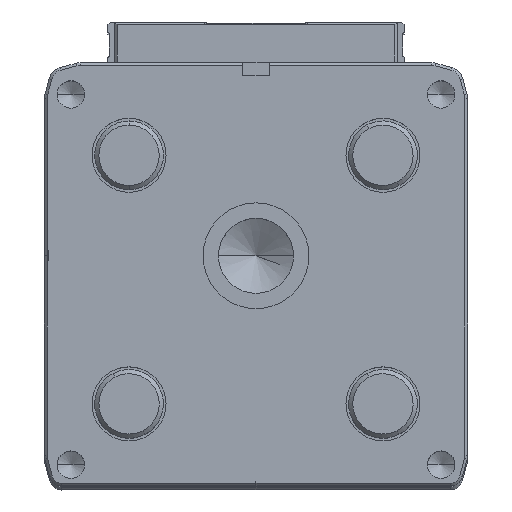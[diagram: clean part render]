
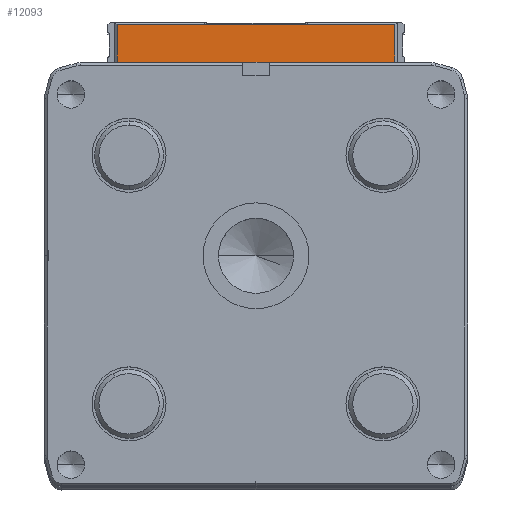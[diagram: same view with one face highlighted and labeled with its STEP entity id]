
A CAD part, top view. The second image highlights one B-rep face of the part: STEP entity #12093.
In plain terms, the highlighted planar face has unit normal (0, 0, 1).
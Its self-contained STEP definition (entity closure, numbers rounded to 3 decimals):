
#391 = ORIENTED_EDGE ( 'NONE', *, *, #11565, .T. ) ;
#1114 = CARTESIAN_POINT ( 'NONE',  ( -26.243, 39.602, 275. ) ) ;
#1487 = EDGE_CURVE ( 'NONE', #19951, #18894, #39191, .T. ) ;
#1749 = VERTEX_POINT ( 'NONE', #30144 ) ;
#3208 = VERTEX_POINT ( 'NONE', #10986 ) ;
#3529 = CARTESIAN_POINT ( 'NONE',  ( 26.757, 35.202, 275. ) ) ;
#3611 = LINE ( 'NONE', #18540, #36789 ) ;
#4406 = DIRECTION ( 'NONE',  ( 0., -1., 0. ) ) ;
#5622 = ORIENTED_EDGE ( 'NONE', *, *, #1487, .T. ) ;
#5961 = LINE ( 'NONE', #1114, #29205 ) ;
#6617 = DIRECTION ( 'NONE',  ( -1., 0., 0. ) ) ;
#8017 = AXIS2_PLACEMENT_3D ( 'NONE', #28629, #31668, #16504 ) ;
#8574 = DIRECTION ( 'NONE',  ( -1., 0., 0. ) ) ;
#9020 = CARTESIAN_POINT ( 'NONE',  ( -26.243, 35.202, 275. ) ) ;
#9574 = CARTESIAN_POINT ( 'NONE',  ( 26.757, 44.002, 275. ) ) ;
#10343 = ORIENTED_EDGE ( 'NONE', *, *, #20480, .T. ) ;
#10986 = CARTESIAN_POINT ( 'NONE',  ( 26.257, 44.002, 275. ) ) ;
#11565 = EDGE_CURVE ( 'NONE', #21140, #27915, #3611, .T. ) ;
#11665 = CARTESIAN_POINT ( 'NONE',  ( 26.257, 35.202, 275. ) ) ;
#12093 = ADVANCED_FACE ( 'NONE', ( #33449 ), #22782, .T. ) ;
#12126 = CARTESIAN_POINT ( 'NONE',  ( 26.257, 39.602, 275. ) ) ;
#14486 = LINE ( 'NONE', #9574, #33542 ) ;
#14919 = VECTOR ( 'NONE', #24772, 1000. ) ;
#15152 = VECTOR ( 'NONE', #18233, 1000. ) ;
#15857 = CARTESIAN_POINT ( 'NONE',  ( 9.607, 44.002, 275. ) ) ;
#15989 = ORIENTED_EDGE ( 'NONE', *, *, #30989, .T. ) ;
#16504 = DIRECTION ( 'NONE',  ( 1., 0., 0. ) ) ;
#17546 = LINE ( 'NONE', #12126, #15152 ) ;
#17970 = CARTESIAN_POINT ( 'NONE',  ( 26.757, 44.002, 275. ) ) ;
#18233 = DIRECTION ( 'NONE',  ( 0., 1., 0. ) ) ;
#18540 = CARTESIAN_POINT ( 'NONE',  ( 9.607, 44.002, 275. ) ) ;
#18894 = VERTEX_POINT ( 'NONE', #11665 ) ;
#19622 = EDGE_CURVE ( 'NONE', #27915, #1749, #14486, .T. ) ;
#19951 = VERTEX_POINT ( 'NONE', #9020 ) ;
#20480 = EDGE_CURVE ( 'NONE', #3208, #21140, #35825, .T. ) ;
#21140 = VERTEX_POINT ( 'NONE', #15857 ) ;
#22782 = PLANE ( 'NONE',  #8017 ) ;
#24772 = DIRECTION ( 'NONE',  ( 1., 0., 0. ) ) ;
#25293 = EDGE_CURVE ( 'NONE', #1749, #19951, #5961, .T. ) ;
#26328 = VECTOR ( 'NONE', #8574, 1000. ) ;
#27901 = DIRECTION ( 'NONE',  ( -1., 0., 0. ) ) ;
#27915 = VERTEX_POINT ( 'NONE', #34412 ) ;
#28629 = CARTESIAN_POINT ( 'NONE',  ( 26.757, 39.602, 275. ) ) ;
#29205 = VECTOR ( 'NONE', #4406, 1000. ) ;
#30144 = CARTESIAN_POINT ( 'NONE',  ( -26.243, 44.002, 275. ) ) ;
#30933 = ORIENTED_EDGE ( 'NONE', *, *, #19622, .T. ) ;
#30989 = EDGE_CURVE ( 'NONE', #18894, #3208, #17546, .T. ) ;
#31668 = DIRECTION ( 'NONE',  ( 0., 0., 1. ) ) ;
#31776 = ORIENTED_EDGE ( 'NONE', *, *, #25293, .T. ) ;
#33449 = FACE_OUTER_BOUND ( 'NONE', #37101, .T. ) ;
#33542 = VECTOR ( 'NONE', #27901, 1000. ) ;
#34412 = CARTESIAN_POINT ( 'NONE',  ( -9.593, 44.002, 275. ) ) ;
#35825 = LINE ( 'NONE', #17970, #26328 ) ;
#36789 = VECTOR ( 'NONE', #6617, 1000. ) ;
#37101 = EDGE_LOOP ( 'NONE', ( #10343, #391, #30933, #31776, #5622, #15989 ) ) ;
#39191 = LINE ( 'NONE', #3529, #14919 ) ;
